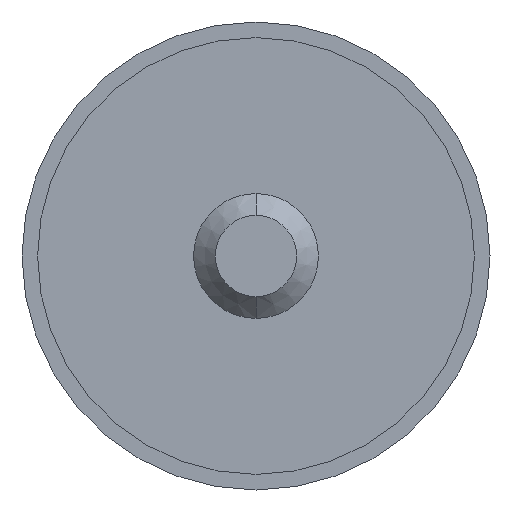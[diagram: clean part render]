
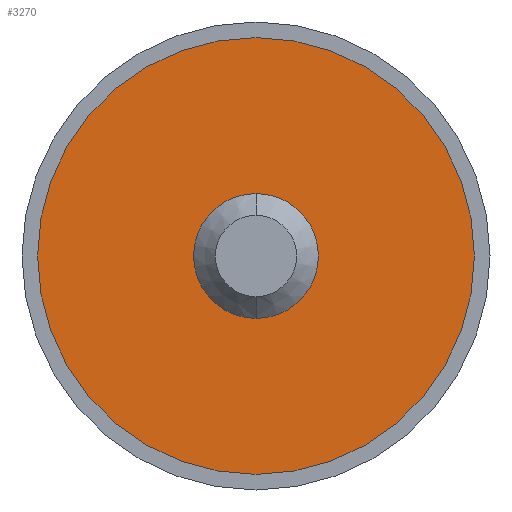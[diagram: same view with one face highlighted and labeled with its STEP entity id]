
A CAD part, front view. The second image highlights one B-rep face of the part: STEP entity #3270.
In plain terms, the highlighted planar face has unit normal (0, -1, 0).
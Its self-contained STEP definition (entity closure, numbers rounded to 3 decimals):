
#80 = AXIS2_PLACEMENT_3D ( 'NONE', #106, #2671, #1902 ) ;
#106 = CARTESIAN_POINT ( 'NONE',  ( 0., -0.5, 0. ) ) ;
#129 = AXIS2_PLACEMENT_3D ( 'NONE', #1161, #770, #1114 ) ;
#131 = PLANE ( 'NONE',  #2730 ) ;
#165 = CARTESIAN_POINT ( 'NONE',  ( 0., -0.5, 7. ) ) ;
#504 = DIRECTION ( 'NONE',  ( 0., 1., 0. ) ) ;
#748 = CIRCLE ( 'NONE', #129, 2. ) ;
#770 = DIRECTION ( 'NONE',  ( 0., -1., 0. ) ) ;
#973 = AXIS2_PLACEMENT_3D ( 'NONE', #3838, #1183, #1934 ) ;
#1040 = AXIS2_PLACEMENT_3D ( 'NONE', #3788, #504, #1601 ) ;
#1114 = DIRECTION ( 'NONE',  ( 0., 0., -1. ) ) ;
#1161 = CARTESIAN_POINT ( 'NONE',  ( 0., -0.5, 0. ) ) ;
#1183 = DIRECTION ( 'NONE',  ( 0., -1., 0. ) ) ;
#1310 = ORIENTED_EDGE ( 'NONE', *, *, #3885, .F. ) ;
#1466 = CIRCLE ( 'NONE', #973, 2. ) ;
#1549 = VERTEX_POINT ( 'NONE', #3632 ) ;
#1601 = DIRECTION ( 'NONE',  ( 0., 0., 1. ) ) ;
#1770 = EDGE_CURVE ( 'NONE', #1549, #1884, #1466, .T. ) ;
#1884 = VERTEX_POINT ( 'NONE', #4217 ) ;
#1902 = DIRECTION ( 'NONE',  ( 0., 0., 1. ) ) ;
#1934 = DIRECTION ( 'NONE',  ( 0., 0., -1. ) ) ;
#1983 = EDGE_LOOP ( 'NONE', ( #1310, #2869 ) ) ;
#2043 = CIRCLE ( 'NONE', #80, 7. ) ;
#2174 = EDGE_CURVE ( 'NONE', #3099, #3091, #2043, .T. ) ;
#2278 = EDGE_CURVE ( 'NONE', #3091, #3099, #4197, .T. ) ;
#2328 = CARTESIAN_POINT ( 'NONE',  ( 0., -0.5, 0. ) ) ;
#2671 = DIRECTION ( 'NONE',  ( 0., 1., 0. ) ) ;
#2730 = AXIS2_PLACEMENT_3D ( 'NONE', #2328, #4459, #2980 ) ;
#2748 = CARTESIAN_POINT ( 'NONE',  ( 0., -0.5, -7. ) ) ;
#2869 = ORIENTED_EDGE ( 'NONE', *, *, #1770, .F. ) ;
#2965 = EDGE_LOOP ( 'NONE', ( #4289, #3599 ) ) ;
#2980 = DIRECTION ( 'NONE',  ( 0., 0., 1. ) ) ;
#2982 = FACE_BOUND ( 'NONE', #1983, .T. ) ;
#3091 = VERTEX_POINT ( 'NONE', #165 ) ;
#3099 = VERTEX_POINT ( 'NONE', #2748 ) ;
#3270 = ADVANCED_FACE ( 'NONE', ( #2982, #4176 ), #131, .F. ) ;
#3599 = ORIENTED_EDGE ( 'NONE', *, *, #2174, .F. ) ;
#3632 = CARTESIAN_POINT ( 'NONE',  ( 0., -0.5, -2. ) ) ;
#3788 = CARTESIAN_POINT ( 'NONE',  ( 0., -0.5, 0. ) ) ;
#3838 = CARTESIAN_POINT ( 'NONE',  ( 0., -0.5, 0. ) ) ;
#3885 = EDGE_CURVE ( 'NONE', #1884, #1549, #748, .T. ) ;
#4176 = FACE_OUTER_BOUND ( 'NONE', #2965, .T. ) ;
#4197 = CIRCLE ( 'NONE', #1040, 7. ) ;
#4217 = CARTESIAN_POINT ( 'NONE',  ( 0., -0.5, 2. ) ) ;
#4289 = ORIENTED_EDGE ( 'NONE', *, *, #2278, .F. ) ;
#4459 = DIRECTION ( 'NONE',  ( 0., 1., 0. ) ) ;
